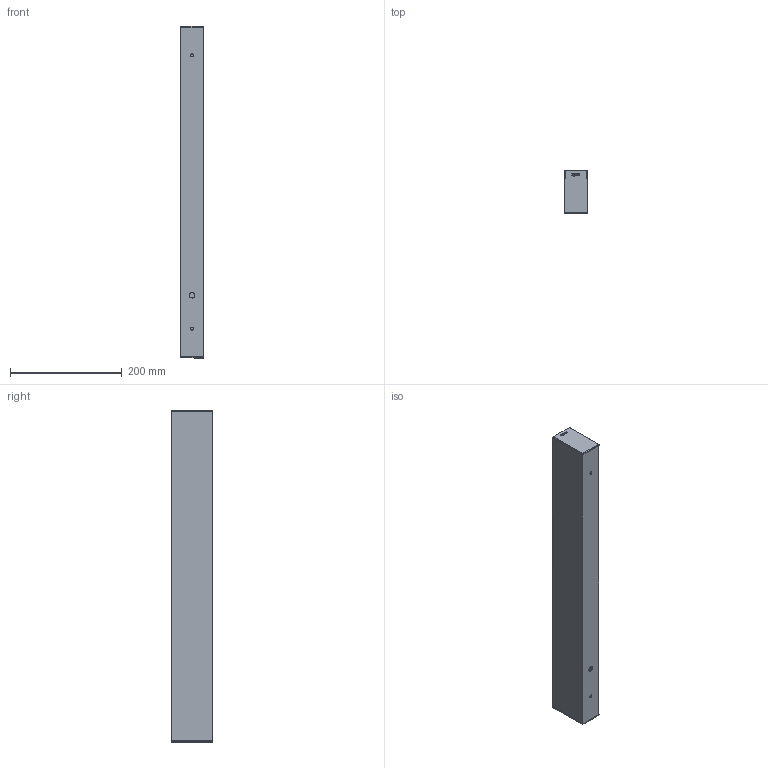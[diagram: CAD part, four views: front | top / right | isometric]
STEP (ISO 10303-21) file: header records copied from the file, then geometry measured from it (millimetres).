
FILE_DESCRIPTION (( 'STEP AP214' ), '1' );
FILE_NAME ('LINE RP-RF 12.STEP', '2017-08-23T09:38:07', ( 'Ofitecnic3' ), ( 'Microsoft' ), 'SwSTEP 2.0', 'SolidWorks 2016', '' );
FILE_SCHEMA (( 'AUTOMOTIVE_DESIGN' ));
Length unit declared in the file: millimetre
Products named in the file (4): Difusor plástico-BIM_LED-590mm; Tapa (LineR)-BIM; Perfil_extrusion (LineR)-BIM_LR2016- 590mm ; LINE RP-RF 12
Assembly tree (4 placements, depth 2):
  LINE RP-RF 12
    Perfil_extrusion (LineR)-BIM_LR2016- 590mm 
    Tapa (LineR)-BIM  x2
    Difusor plástico-BIM_LED-590mm
Bounding box: 42.5 x 74.75 x 595 mm (x, y, z)
Volume: 266794.1 mm3; surface area: 299045.8 mm2
Topology: 4 solids, 4 shells, 425 faces, 1049 edges, 650 vertices
Faces by surface type: plane 182, cylinder 157, bspline 82, sphere 4
Entity records: 8685 total; most frequent: CARTESIAN_POINT 3302, ORIENTED_EDGE 1180, DIRECTION 969, EDGE_CURVE 590, VERTEX_POINT 370, LINE 355, VECTOR 355, AXIS2_PLACEMENT_3D 307
